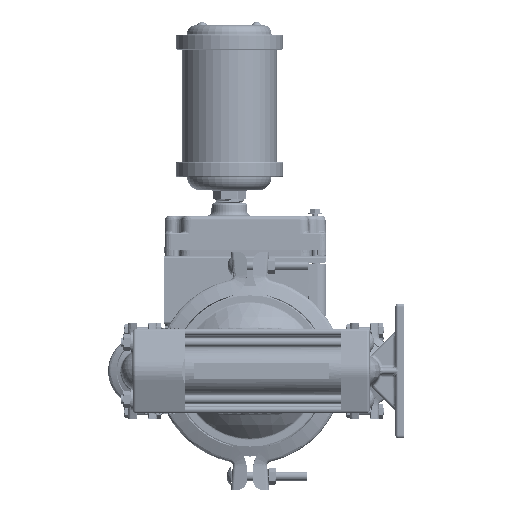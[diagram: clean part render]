
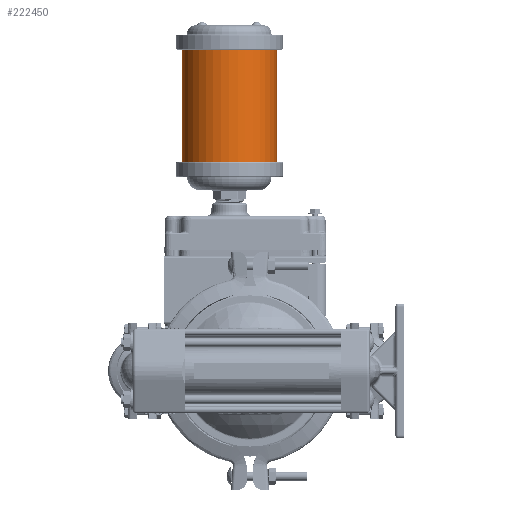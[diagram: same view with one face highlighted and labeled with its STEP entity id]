
A CAD part, left-side view. The second image highlights one B-rep face of the part: STEP entity #222450.
In plain terms, the highlighted cylindrical face has radius 35.56 mm (diameter 71.12 mm), a partial arc.
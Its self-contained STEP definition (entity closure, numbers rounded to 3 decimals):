
#56740 = ORIENTED_EDGE ( 'NONE', *, *, #364915, .T. ) ;
#65504 = CIRCLE ( 'NONE', #101174, 35.56 ) ;
#68171 = EDGE_CURVE ( 'NONE', #543405, #385355, #65504, .T. ) ;
#74382 = CARTESIAN_POINT ( 'NONE',  ( 0., -19.99, 242.164 ) ) ;
#92214 = VECTOR ( 'NONE', #366704, 1000. ) ;
#101174 = AXIS2_PLACEMENT_3D ( 'NONE', #125190, #386375, #467880 ) ;
#113818 = CARTESIAN_POINT ( 'NONE',  ( 0., 51.13, 157.353 ) ) ;
#114128 = LINE ( 'NONE', #153471, #339422 ) ;
#125190 = CARTESIAN_POINT ( 'NONE',  ( 0., 15.57, 157.353 ) ) ;
#153471 = CARTESIAN_POINT ( 'NONE',  ( 0., -19.99, 157.353 ) ) ;
#161652 = EDGE_CURVE ( 'NONE', #543405, #506132, #114128, .T. ) ;
#169686 = AXIS2_PLACEMENT_3D ( 'NONE', #390549, #213676, #474813 ) ;
#213676 = DIRECTION ( 'NONE',  ( 0., 0., -1. ) ) ;
#215750 = FACE_OUTER_BOUND ( 'NONE', #217432, .T. ) ;
#217432 = EDGE_LOOP ( 'NONE', ( #56740, #322164, #274352, #280439 ) ) ;
#222450 = ADVANCED_FACE ( 'NONE', ( #215750 ), #347717, .T. ) ;
#274352 = ORIENTED_EDGE ( 'NONE', *, *, #68171, .F. ) ;
#277654 = CARTESIAN_POINT ( 'NONE',  ( 0., 51.13, 242.164 ) ) ;
#280439 = ORIENTED_EDGE ( 'NONE', *, *, #161652, .T. ) ;
#285535 = DIRECTION ( 'NONE',  ( 0., 0., 1. ) ) ;
#313944 = CARTESIAN_POINT ( 'NONE',  ( 0., -19.99, 157.353 ) ) ;
#322164 = ORIENTED_EDGE ( 'NONE', *, *, #507396, .F. ) ;
#339422 = VECTOR ( 'NONE', #285535, 1000. ) ;
#347717 = CYLINDRICAL_SURFACE ( 'NONE', #462376, 35.56 ) ;
#350783 = LINE ( 'NONE', #113818, #92214 ) ;
#364915 = EDGE_CURVE ( 'NONE', #506132, #489287, #393848, .T. ) ;
#366704 = DIRECTION ( 'NONE',  ( 0., 0., 1. ) ) ;
#385355 = VERTEX_POINT ( 'NONE', #493674 ) ;
#386375 = DIRECTION ( 'NONE',  ( 0., 0., -1. ) ) ;
#390549 = CARTESIAN_POINT ( 'NONE',  ( 0., 15.57, 242.164 ) ) ;
#393848 = CIRCLE ( 'NONE', #169686, 35.56 ) ;
#462376 = AXIS2_PLACEMENT_3D ( 'NONE', #552840, #513472, #550105 ) ;
#467880 = DIRECTION ( 'NONE',  ( 0., -1., 0. ) ) ;
#474813 = DIRECTION ( 'NONE',  ( 0., -1., 0. ) ) ;
#489287 = VERTEX_POINT ( 'NONE', #277654 ) ;
#493674 = CARTESIAN_POINT ( 'NONE',  ( 0., 51.13, 157.353 ) ) ;
#506132 = VERTEX_POINT ( 'NONE', #74382 ) ;
#507396 = EDGE_CURVE ( 'NONE', #385355, #489287, #350783, .T. ) ;
#513472 = DIRECTION ( 'NONE',  ( 0., 0., -1. ) ) ;
#543405 = VERTEX_POINT ( 'NONE', #313944 ) ;
#550105 = DIRECTION ( 'NONE',  ( 0., 1., 0. ) ) ;
#552840 = CARTESIAN_POINT ( 'NONE',  ( 0., 15.57, 266.7 ) ) ;
